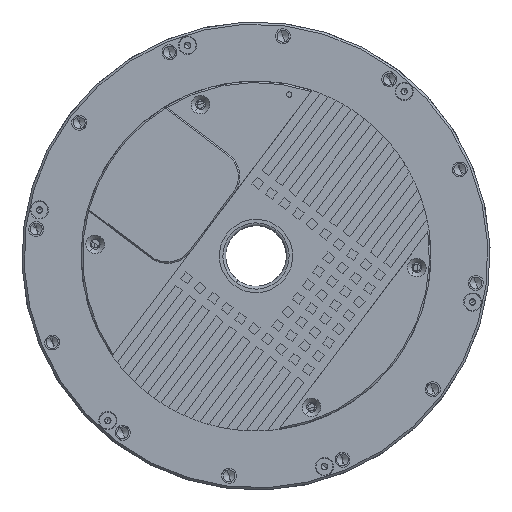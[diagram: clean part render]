
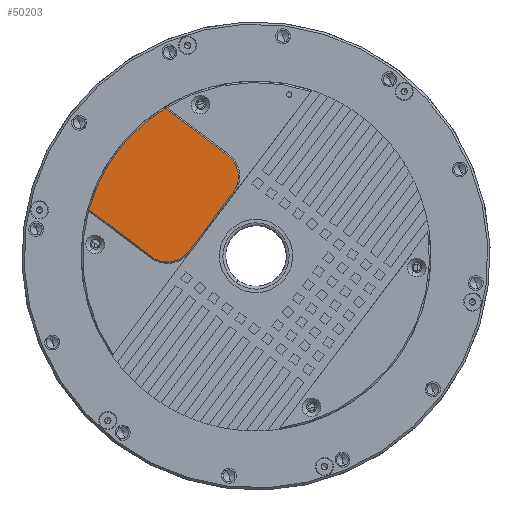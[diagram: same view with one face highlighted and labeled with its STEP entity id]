
A CAD part, front view. The second image highlights one B-rep face of the part: STEP entity #50203.
In plain terms, the highlighted planar face has unit normal (0, -1, 0) as drawn and (0, 1, 0) by its records, which use the part's own axes.
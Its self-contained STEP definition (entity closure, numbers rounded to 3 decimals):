
#220 = EDGE_CURVE ( 'NONE', #30262, #13711, #6764, .T. ) ;
#1179 = EDGE_CURVE ( 'NONE', #51146, #2278, #12649, .T. ) ;
#1683 = DIRECTION ( 'NONE',  ( 0., 0., 1. ) ) ;
#2278 = VERTEX_POINT ( 'NONE', #42172 ) ;
#3913 = CARTESIAN_POINT ( 'NONE',  ( 20., 15., -13. ) ) ;
#3941 = CIRCLE ( 'NONE', #8291, 9.5 ) ;
#4981 = CARTESIAN_POINT ( 'NONE',  ( 29.5, 15., -13. ) ) ;
#5052 = AXIS2_PLACEMENT_3D ( 'NONE', #7145, #54042, #1683 ) ;
#6584 = CARTESIAN_POINT ( 'NONE',  ( 0., 15., 0. ) ) ;
#6764 = CIRCLE ( 'NONE', #18789, 61.5 ) ;
#6950 = VECTOR ( 'NONE', #26580, 1000. ) ;
#7145 = CARTESIAN_POINT ( 'NONE',  ( 0., 15., 0. ) ) ;
#7575 = EDGE_CURVE ( 'NONE', #50082, #27649, #3941, .T. ) ;
#8291 = AXIS2_PLACEMENT_3D ( 'NONE', #4981, #15253, #24851 ) ;
#8818 = CARTESIAN_POINT ( 'NONE',  ( 57.236, 15., 22.5 ) ) ;
#9370 = AXIS2_PLACEMENT_3D ( 'NONE', #53905, #58715, #26553 ) ;
#11036 = DIRECTION ( 'NONE',  ( 0., 1., 0. ) ) ;
#12649 = CIRCLE ( 'NONE', #9370, 9.5 ) ;
#13711 = VERTEX_POINT ( 'NONE', #35466 ) ;
#15253 = DIRECTION ( 'NONE',  ( 0., 1., 0. ) ) ;
#15761 = DIRECTION ( 'NONE',  ( 0., 0., 1. ) ) ;
#18219 = EDGE_CURVE ( 'NONE', #13711, #50082, #52913, .T. ) ;
#18789 = AXIS2_PLACEMENT_3D ( 'NONE', #6584, #11036, #21313 ) ;
#20564 = ORIENTED_EDGE ( 'NONE', *, *, #220, .T. ) ;
#21313 = DIRECTION ( 'NONE',  ( 0., 0., 1. ) ) ;
#21387 = EDGE_CURVE ( 'NONE', #27649, #51146, #67120, .T. ) ;
#22756 = ORIENTED_EDGE ( 'NONE', *, *, #36901, .T. ) ;
#23288 = CARTESIAN_POINT ( 'NONE',  ( 0., 15., 22.5 ) ) ;
#24851 = DIRECTION ( 'NONE',  ( 0., 0., 1. ) ) ;
#26553 = DIRECTION ( 'NONE',  ( 0., 0., 1. ) ) ;
#26580 = DIRECTION ( 'NONE',  ( -1., 0., 0. ) ) ;
#27649 = VERTEX_POINT ( 'NONE', #3913 ) ;
#28453 = LINE ( 'NONE', #23288, #41991 ) ;
#30262 = VERTEX_POINT ( 'NONE', #8818 ) ;
#35466 = CARTESIAN_POINT ( 'NONE',  ( 57.236, 15., -22.5 ) ) ;
#36901 = EDGE_CURVE ( 'NONE', #2278, #30262, #28453, .T. ) ;
#38463 = CARTESIAN_POINT ( 'NONE',  ( 20., 15., 13. ) ) ;
#41231 = ORIENTED_EDGE ( 'NONE', *, *, #21387, .T. ) ;
#41991 = VECTOR ( 'NONE', #53748, 1000. ) ;
#42172 = CARTESIAN_POINT ( 'NONE',  ( 29.5, 15., 22.5 ) ) ;
#46570 = CARTESIAN_POINT ( 'NONE',  ( 20., 15., 0. ) ) ;
#46897 = CARTESIAN_POINT ( 'NONE',  ( 29.5, 15., -22.5 ) ) ;
#47814 = VECTOR ( 'NONE', #15761, 1000. ) ;
#49264 = PLANE ( 'NONE',  #5052 ) ;
#50082 = VERTEX_POINT ( 'NONE', #46897 ) ;
#50203 = ADVANCED_FACE ( 'NONE', ( #55392 ), #49264, .T. ) ;
#51146 = VERTEX_POINT ( 'NONE', #38463 ) ;
#52913 = LINE ( 'NONE', #57728, #6950 ) ;
#53479 = ORIENTED_EDGE ( 'NONE', *, *, #7575, .T. ) ;
#53748 = DIRECTION ( 'NONE',  ( 1., 0., 0. ) ) ;
#53905 = CARTESIAN_POINT ( 'NONE',  ( 29.5, 15., 13. ) ) ;
#54042 = DIRECTION ( 'NONE',  ( 0., 1., 0. ) ) ;
#55392 = FACE_OUTER_BOUND ( 'NONE', #66867, .T. ) ;
#57728 = CARTESIAN_POINT ( 'NONE',  ( 0., 15., -22.5 ) ) ;
#58715 = DIRECTION ( 'NONE',  ( 0., 1., 0. ) ) ;
#62514 = ORIENTED_EDGE ( 'NONE', *, *, #1179, .T. ) ;
#66064 = ORIENTED_EDGE ( 'NONE', *, *, #18219, .T. ) ;
#66867 = EDGE_LOOP ( 'NONE', ( #20564, #66064, #53479, #41231, #62514, #22756 ) ) ;
#67120 = LINE ( 'NONE', #46570, #47814 ) ;
